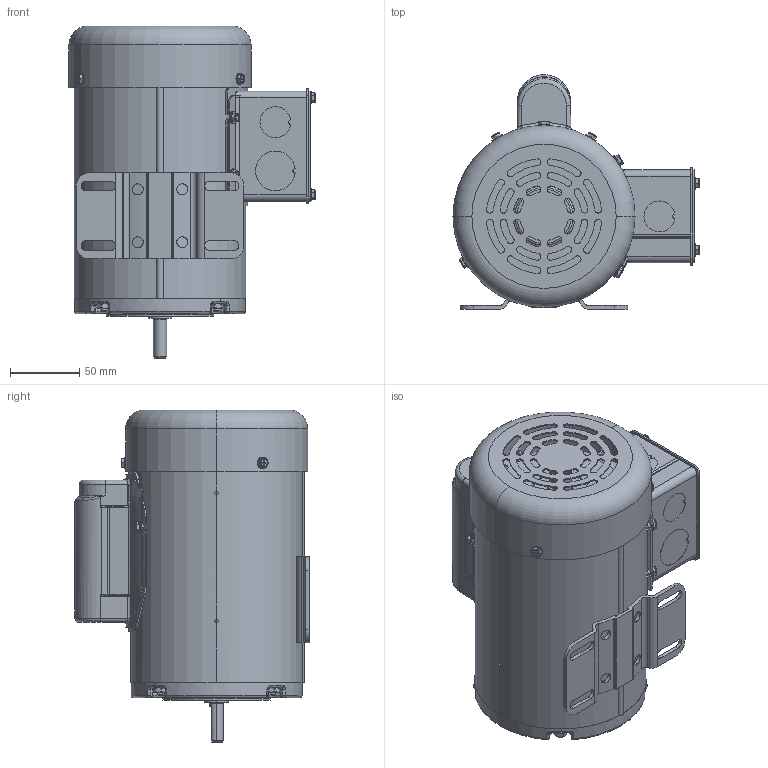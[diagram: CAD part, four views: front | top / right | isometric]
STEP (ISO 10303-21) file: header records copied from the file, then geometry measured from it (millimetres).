
FILE_DESCRIPTION (( 'STEP AP203' ), '1' );
FILE_NAME ('027616-N42_Rev0.STEP', '2017-07-07T05:47:43', ( 'admin' ), ( '' ), 'SwSTEP 2.0', 'SolidWorks 2015', '' );
FILE_SCHEMA (( 'CONFIG_CONTROL_DESIGN' ));
Length unit declared in the file: inch
Products named in the file (1): 027616-N42_Rev0
Bounding box: 177.09 x 168.73 x 238.96 mm (x, y, z)
Volume: 419096.3 mm3; surface area: 412758 mm2
Topology: 38 solids, 38 shells, 3154 faces, 7644 edges, 4558 vertices
Faces by surface type: plane 837, bspline 818, cylinder 770, torus 342, cone 285, sphere 102
Entity records: 129363 total; most frequent: CARTESIAN_POINT 62085, ORIENTED_EDGE 15088, DIRECTION 12616, EDGE_CURVE 7544, AXIS2_PLACEMENT_3D 5217, VERTEX_POINT 4558, EDGE_LOOP 3414, FACE_OUTER_BOUND 3154
